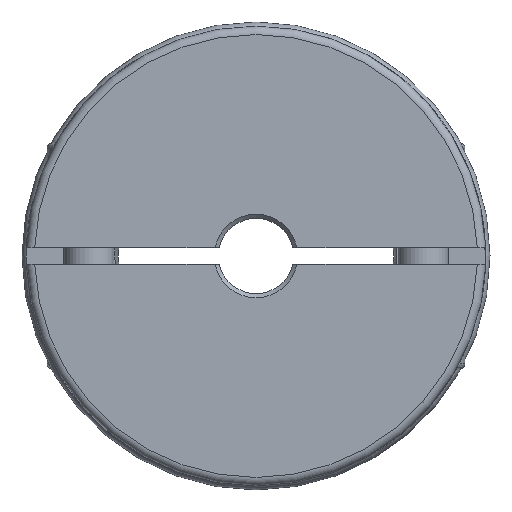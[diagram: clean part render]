
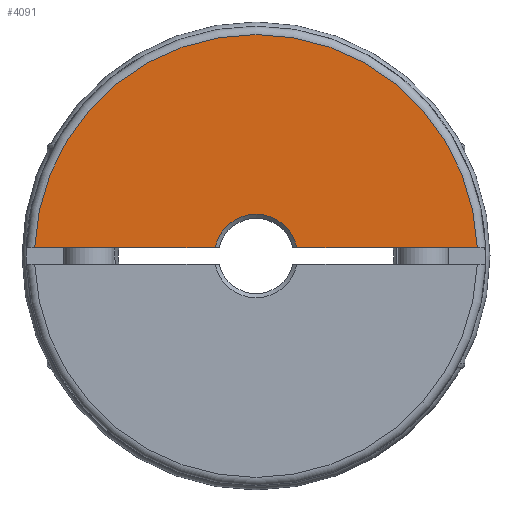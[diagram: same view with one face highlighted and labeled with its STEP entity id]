
A CAD part, left-side view. The second image highlights one B-rep face of the part: STEP entity #4091.
In plain terms, the highlighted planar face has unit normal (-1, 0, 0).
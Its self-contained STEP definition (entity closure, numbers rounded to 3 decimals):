
#98=LINE('',#6471,#242);
#107=LINE('',#6505,#251);
#242=VECTOR('',#5082,1000.);
#251=VECTOR('',#5101,1000.);
#428=PLANE('',#4428);
#1077=ORIENTED_EDGE('',*,*,#1532,.T.);
#1078=ORIENTED_EDGE('',*,*,#1472,.T.);
#1079=ORIENTED_EDGE('',*,*,#1518,.F.);
#1080=ORIENTED_EDGE('',*,*,#1548,.F.);
#1472=EDGE_CURVE('',#1791,#1789,#2003,.T.);
#1518=EDGE_CURVE('',#1834,#1789,#98,.T.);
#1532=EDGE_CURVE('',#1840,#1791,#107,.T.);
#1548=EDGE_CURVE('',#1840,#1834,#2034,.T.);
#1789=VERTEX_POINT('',#6170);
#1791=VERTEX_POINT('',#6173);
#1834=VERTEX_POINT('',#6472);
#1840=VERTEX_POINT('',#6506);
#2003=CIRCLE('',#4357,5.);
#2034=CIRCLE('',#4410,26.5);
#2278=EDGE_LOOP('',(#1077,#1078,#1079,#1080));
#2552=FACE_BOUND('',#2278,.T.);
#4091=ADVANCED_FACE('',(#2552),#428,.F.);
#4357=AXIS2_PLACEMENT_3D('',#6172,#5002,#5003);
#4410=AXIS2_PLACEMENT_3D('',#6548,#5132,#5133);
#4428=AXIS2_PLACEMENT_3D('',#6566,#5168,#5169);
#5002=DIRECTION('',(1.,0.,0.));
#5003=DIRECTION('',(0.,-1.,0.));
#5082=DIRECTION('',(0.,1.,0.));
#5101=DIRECTION('',(0.,-1.,0.));
#5132=DIRECTION('',(1.,0.,0.));
#5133=DIRECTION('',(0.,-1.,0.));
#5168=DIRECTION('',(1.,0.,0.));
#5169=DIRECTION('',(0.,-1.,0.));
#6170=CARTESIAN_POINT('',(-23.03,-4.899,1.));
#6172=CARTESIAN_POINT('',(-23.03,0.,0.));
#6173=CARTESIAN_POINT('',(-23.03,4.899,1.));
#6471=CARTESIAN_POINT('',(-23.03,27.5,1.));
#6472=CARTESIAN_POINT('',(-23.03,-26.481,1.));
#6505=CARTESIAN_POINT('',(-23.03,27.5,1.));
#6506=CARTESIAN_POINT('',(-23.03,26.481,1.));
#6548=CARTESIAN_POINT('',(-23.03,0.,0.));
#6566=CARTESIAN_POINT('',(-23.03,27.5,0.));
